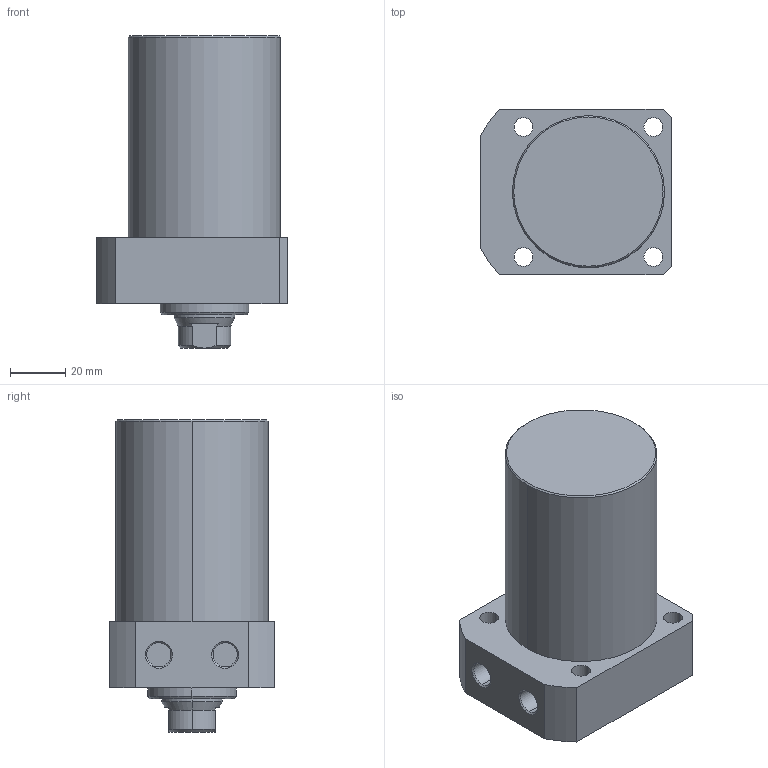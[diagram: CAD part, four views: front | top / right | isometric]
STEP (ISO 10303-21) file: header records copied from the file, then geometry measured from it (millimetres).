
FILE_DESCRIPTION (( 'STEP AP203' ), '1' );
FILE_NAME ('CLLR-055CA-060.STEP', '2019-12-19T07:29:29', ( '' ), ( '' ), 'SwSTEP 2.0', 'SolidWorks 2015', '' );
FILE_SCHEMA (( 'CONFIG_CONTROL_DESIGN' ));
Length unit declared in the file: millimetre
Products named in the file (1): CLLR-055CA-060
Bounding box: 69 x 60 x 113 mm (x, y, z)
Volume: 271072.3 mm3; surface area: 30795.5 mm2
Topology: 1 solids, 1 shells, 65 faces, 151 edges, 94 vertices
Faces by surface type: cylinder 29, plane 19, cone 17
Entity records: 1967 total; most frequent: CARTESIAN_POINT 349, DIRECTION 348, ORIENTED_EDGE 298, EDGE_CURVE 149, AXIS2_PLACEMENT_3D 141, VERTEX_POINT 94, EDGE_LOOP 81, CIRCLE 75
